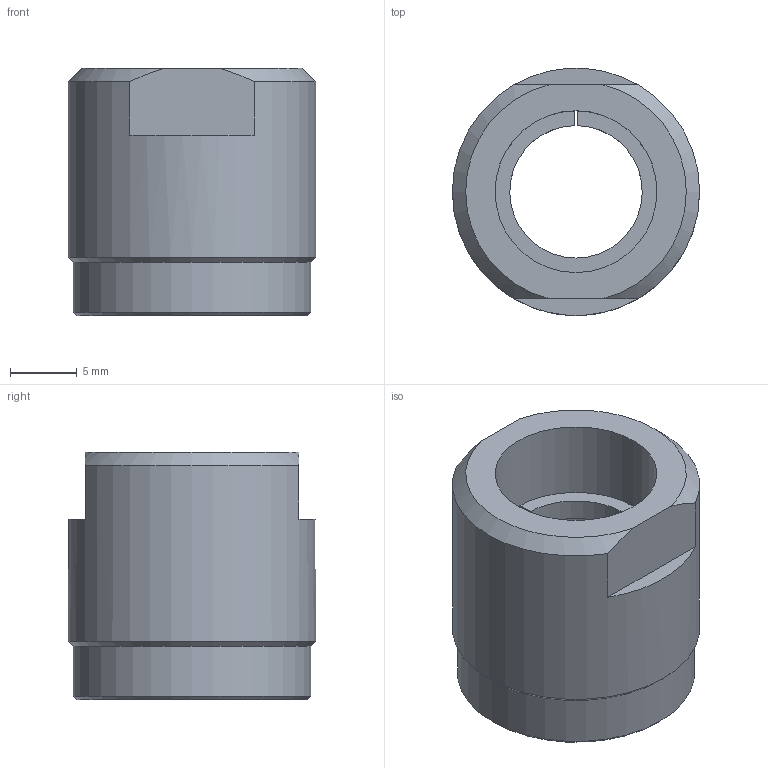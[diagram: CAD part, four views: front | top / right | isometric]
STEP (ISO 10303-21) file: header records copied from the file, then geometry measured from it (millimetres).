
FILE_DESCRIPTION (( 'STEP AP203' ), '1' );
FILE_NAME ('COB-1004.STEP', '2021-10-01T22:07:45', ( '' ), ( '' ), 'SwSTEP 2.0', 'SolidWorks 2020', '' );
FILE_SCHEMA (( 'CONFIG_CONTROL_DESIGN' ));
Length unit declared in the file: millimetre
Products named in the file (3): 00093; Part52^Assem7; COB-1004
Assembly tree (2 placements, depth 2):
  COB-1004
    00093
    Part52^Assem7
Bounding box: 18.5 x 18.5 x 18.5 mm (x, y, z)
Volume: 1891.3 mm3; surface area: 2848.5 mm2
Topology: 2 solids, 2 shells, 27 faces, 63 edges, 41 vertices
Faces by surface type: plane 13, cylinder 7, cone 4, bspline 3
Full cylindrical faces by diameter (mm): 12.1 x1, 16 x1, 17.75 x1, 18.5 x1
Entity records: 3590 total; most frequent: CARTESIAN_POINT 2738, DIRECTION 115, ORIENTED_EDGE 110, EDGE_CURVE 55, AXIS2_PLACEMENT_3D 49, VERTEX_POINT 39, EDGE_LOOP 36, FACE_OUTER_BOUND 31
